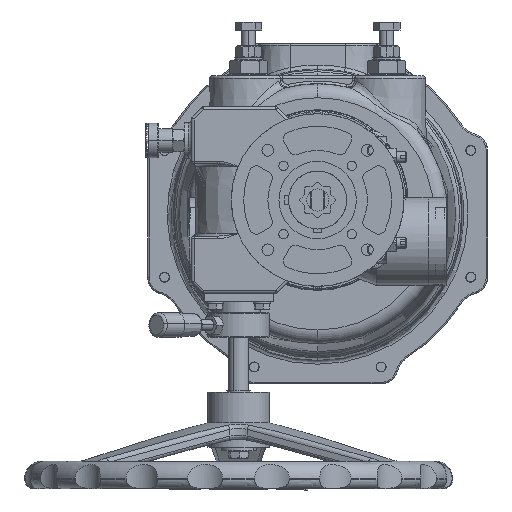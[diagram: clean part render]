
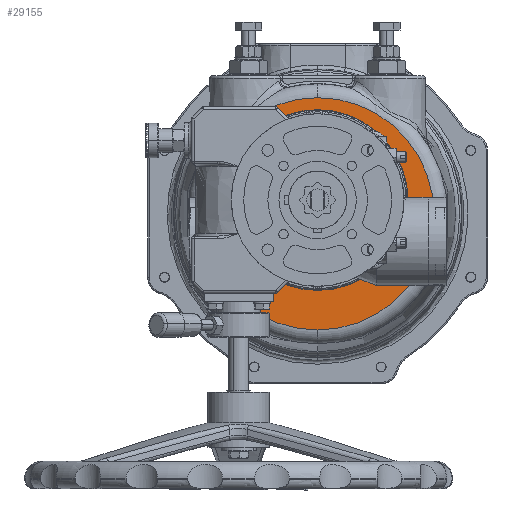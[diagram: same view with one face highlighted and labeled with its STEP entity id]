
A CAD part, front view. The second image highlights one B-rep face of the part: STEP entity #29155.
In plain terms, the highlighted planar face has unit normal (0, -1, 0).
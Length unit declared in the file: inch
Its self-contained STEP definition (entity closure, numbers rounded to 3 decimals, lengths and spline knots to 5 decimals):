
#5454 = CIRCLE ( 'NONE', #56781, 3.31171 ) ;
#8562 = EDGE_CURVE ( 'NONE', #20945, #99748, #58380, .T. ) ;
#8934 = CARTESIAN_POINT ( 'NONE',  ( 5.81311, 1.71175, 5.04112 ) ) ;
#9962 = EDGE_CURVE ( 'NONE', #64499, #35156, #49556, .T. ) ;
#14622 = EDGE_CURVE ( 'NONE', #99748, #20945, #5454, .T. ) ;
#17380 = CARTESIAN_POINT ( 'NONE',  ( 9.12483, 1.71175, 5.04112 ) ) ;
#20945 = VERTEX_POINT ( 'NONE', #63263 ) ;
#21771 = CIRCLE ( 'NONE', #48292, 2.5767 ) ;
#24432 = DIRECTION ( 'NONE',  ( 0., 0., 1. ) ) ;
#25717 = FACE_BOUND ( 'NONE', #97344, .T. ) ;
#27226 = AXIS2_PLACEMENT_3D ( 'NONE', #17380, #63663, #24432 ) ;
#29155 = ADVANCED_FACE ( 'NONE', ( #25717, #115077 ), #83684, .F. ) ;
#29599 = CARTESIAN_POINT ( 'NONE',  ( 5.81311, 1.71175, 5.43482 ) ) ;
#31654 = DIRECTION ( 'NONE',  ( 0., 1., 0. ) ) ;
#35156 = VERTEX_POINT ( 'NONE', #124683 ) ;
#39205 = EDGE_LOOP ( 'NONE', ( #81821, #73954 ) ) ;
#40929 = CARTESIAN_POINT ( 'NONE',  ( 5.81311, 1.71175, 5.04112 ) ) ;
#45956 = AXIS2_PLACEMENT_3D ( 'NONE', #40929, #51306, #79770 ) ;
#48077 = DIRECTION ( 'NONE',  ( 0., 0., -1. ) ) ;
#48292 = AXIS2_PLACEMENT_3D ( 'NONE', #49709, #31654, #99315 ) ;
#49556 = CIRCLE ( 'NONE', #113198, 2.5767 ) ;
#49709 = CARTESIAN_POINT ( 'NONE',  ( 5.81311, 1.71175, 5.43482 ) ) ;
#51248 = CARTESIAN_POINT ( 'NONE',  ( 5.81311, 1.71175, 2.85813 ) ) ;
#51306 = DIRECTION ( 'NONE',  ( 0., -1., 0. ) ) ;
#51427 = EDGE_CURVE ( 'NONE', #35156, #64499, #21771, .T. ) ;
#56781 = AXIS2_PLACEMENT_3D ( 'NONE', #8934, #107260, #48077 ) ;
#58380 = CIRCLE ( 'NONE', #45956, 3.31171 ) ;
#63263 = CARTESIAN_POINT ( 'NONE',  ( 5.81311, 1.71175, 8.35283 ) ) ;
#63663 = DIRECTION ( 'NONE',  ( 0., 1., 0. ) ) ;
#64499 = VERTEX_POINT ( 'NONE', #51248 ) ;
#71104 = ORIENTED_EDGE ( 'NONE', *, *, #51427, .T. ) ;
#73954 = ORIENTED_EDGE ( 'NONE', *, *, #8562, .T. ) ;
#79770 = DIRECTION ( 'NONE',  ( 0., 0., -1. ) ) ;
#81054 = CARTESIAN_POINT ( 'NONE',  ( 5.81311, 1.71175, 1.72941 ) ) ;
#81821 = ORIENTED_EDGE ( 'NONE', *, *, #14622, .T. ) ;
#83684 = PLANE ( 'NONE',  #27226 ) ;
#88303 = DIRECTION ( 'NONE',  ( 0., 1., 0. ) ) ;
#97344 = EDGE_LOOP ( 'NONE', ( #71104, #104151 ) ) ;
#98525 = DIRECTION ( 'NONE',  ( 0., 0., 1. ) ) ;
#99315 = DIRECTION ( 'NONE',  ( 0., 0., 1. ) ) ;
#99748 = VERTEX_POINT ( 'NONE', #81054 ) ;
#104151 = ORIENTED_EDGE ( 'NONE', *, *, #9962, .T. ) ;
#107260 = DIRECTION ( 'NONE',  ( 0., -1., 0. ) ) ;
#113198 = AXIS2_PLACEMENT_3D ( 'NONE', #29599, #88303, #98525 ) ;
#115077 = FACE_OUTER_BOUND ( 'NONE', #39205, .T. ) ;
#124683 = CARTESIAN_POINT ( 'NONE',  ( 5.81311, 1.71175, 8.01152 ) ) ;
